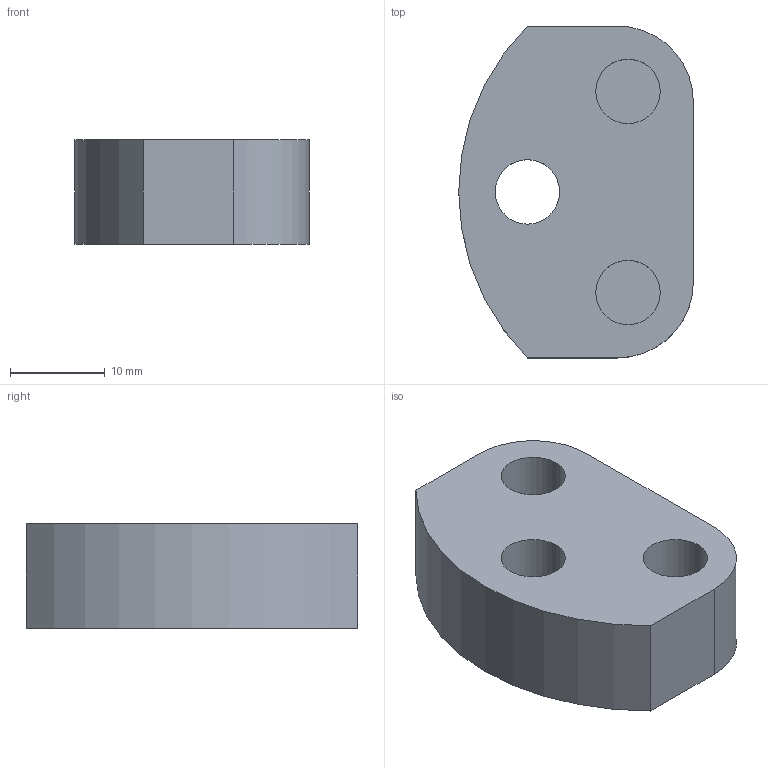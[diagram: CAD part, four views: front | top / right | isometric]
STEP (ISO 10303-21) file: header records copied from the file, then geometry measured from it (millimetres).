
FILE_DESCRIPTION (( 'STEP AP203' ), '1' );
FILE_NAME ('喘謫盓殤.STEP', '2025-05-01T07:35:02', ( '' ), ( '' ), 'SwSTEP 2.0', 'SolidWorks 2024', '' );
FILE_SCHEMA (( 'CONFIG_CONTROL_DESIGN' ));
Length unit declared in the file: millimetre
Products named in the file (1): 齿轮支架
Bounding box: 24.75 x 35 x 11 mm (x, y, z)
Volume: 6993.8 mm3; surface area: 3227.6 mm2
Topology: 1 solids, 1 shells, 19 faces, 42 edges, 28 vertices
Faces by surface type: cylinder 11, plane 8
Entity records: 619 total; most frequent: DIRECTION 104, CARTESIAN_POINT 90, ORIENTED_EDGE 84, EDGE_CURVE 42, AXIS2_PLACEMENT_3D 42, VERTEX_POINT 28, EDGE_LOOP 24, CIRCLE 22
